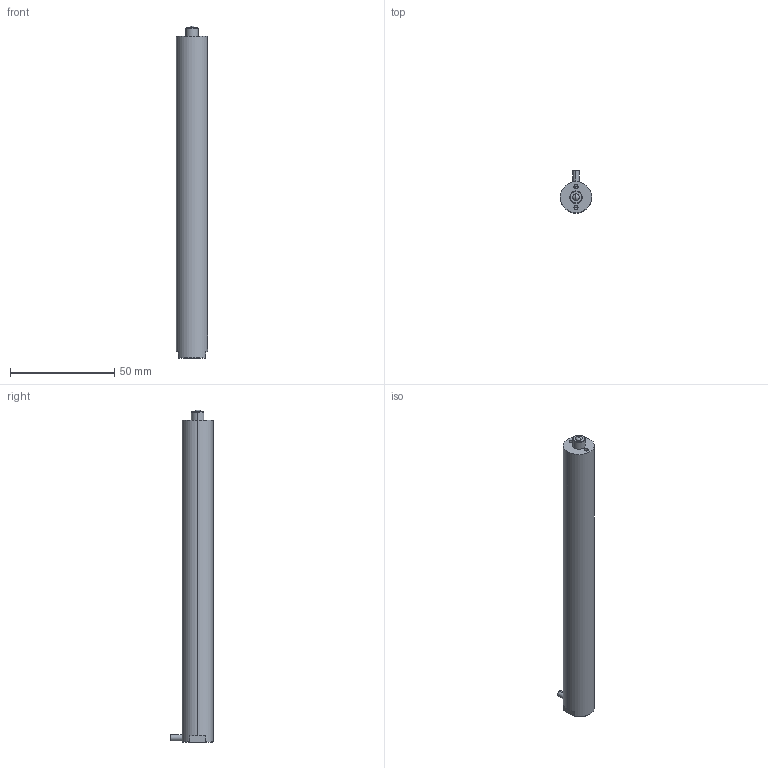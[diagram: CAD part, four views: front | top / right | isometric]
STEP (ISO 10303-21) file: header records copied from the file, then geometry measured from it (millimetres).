
FILE_DESCRIPTION (( 'STEP AP203' ), '1' );
FILE_NAME ('160VS15球头.STEP', '2024-11-30T07:44:38', ( 'daohangxitong.com' ), ( 'daohangxitong.com' ), 'SwSTEP 2.0', 'SolidWorks 2016', '' );
FILE_SCHEMA (( 'CONFIG_CONTROL_DESIGN' ));
Products named in the file (1): 160VS15球头
Bounding box: 15 x 20.5 x 159.6 mm (x, y, z)
Volume: 27395 mm3; surface area: 7834.7 mm2
Topology: 1 solids, 1 shells, 763 faces, 2184 edges, 1450 vertices
Faces by surface type: bspline 666, cylinder 44, plane 39, cone 12, sphere 2
Entity records: 42889 total; most frequent: CARTESIAN_POINT 28882, ORIENTED_EDGE 4356, EDGE_CURVE 2178, B_SPLINE_CURVE_WITH_KNOTS 2044, VERTEX_POINT 1450, EDGE_LOOP 796, FACE_OUTER_BOUND 763, ADVANCED_FACE 763
